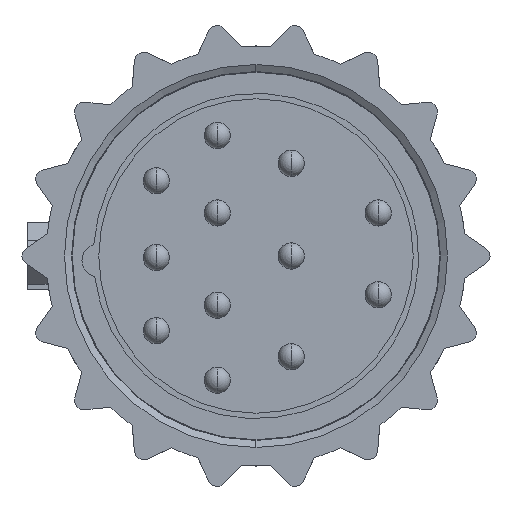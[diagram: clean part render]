
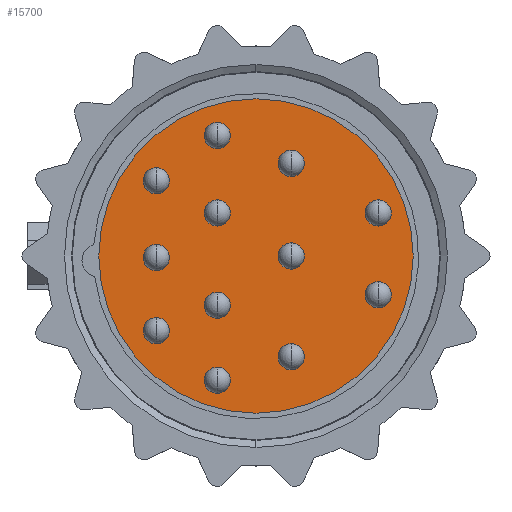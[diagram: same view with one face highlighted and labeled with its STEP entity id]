
A CAD part, left-side view. The second image highlights one B-rep face of the part: STEP entity #15700.
In plain terms, the highlighted planar face has unit normal (-1, 0, 0) as drawn and (1, 0, 0) by its records, which use the part's own axes.
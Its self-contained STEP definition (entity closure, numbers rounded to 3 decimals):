
#10785=CARTESIAN_POINT('',(-7.69,0.,0.));
#10786=DIRECTION('',(-1.,0.,0.));
#10787=DIRECTION('',(0.,0.,-1.));
#10788=AXIS2_PLACEMENT_3D('',#10785,#10786,#10787);
#10790=CARTESIAN_POINT('',(-7.69,0.,0.));
#10791=DIRECTION('',(1.,0.,0.));
#10792=DIRECTION('',(0.,0.,-1.));
#10793=AXIS2_PLACEMENT_3D('',#10790,#10791,#10792);
#10795=CARTESIAN_POINT('',(-7.69,5.66,4.24));
#10796=DIRECTION('',(1.,0.,0.));
#10797=DIRECTION('',(0.,0.,-1.));
#10798=AXIS2_PLACEMENT_3D('',#10795,#10796,#10797);
#10800=CARTESIAN_POINT('',(-7.69,5.66,4.24));
#10801=DIRECTION('',(1.,0.,0.));
#10802=DIRECTION('',(0.,0.,1.));
#10803=AXIS2_PLACEMENT_3D('',#10800,#10801,#10802);
#10805=CARTESIAN_POINT('',(-7.69,5.66,0.09));
#10806=DIRECTION('',(1.,0.,0.));
#10807=DIRECTION('',(0.,0.,-1.));
#10808=AXIS2_PLACEMENT_3D('',#10805,#10806,#10807);
#10810=CARTESIAN_POINT('',(-7.69,5.66,0.09));
#10811=DIRECTION('',(1.,0.,0.));
#10812=DIRECTION('',(0.,0.,1.));
#10813=AXIS2_PLACEMENT_3D('',#10810,#10811,#10812);
#10815=CARTESIAN_POINT('',(-7.69,5.66,-4.275));
#10816=DIRECTION('',(1.,0.,0.));
#10817=DIRECTION('',(0.,0.,-1.));
#10818=AXIS2_PLACEMENT_3D('',#10815,#10816,#10817);
#10820=CARTESIAN_POINT('',(-7.69,5.66,-4.275));
#10821=DIRECTION('',(1.,0.,0.));
#10822=DIRECTION('',(0.,0.,1.));
#10823=AXIS2_PLACEMENT_3D('',#10820,#10821,#10822);
#10825=CARTESIAN_POINT('',(-7.69,2.2,-2.445));
#10826=DIRECTION('',(1.,0.,0.));
#10827=DIRECTION('',(0.,0.,-1.));
#10828=AXIS2_PLACEMENT_3D('',#10825,#10826,#10827);
#10830=CARTESIAN_POINT('',(-7.69,2.2,-2.445));
#10831=DIRECTION('',(1.,0.,0.));
#10832=DIRECTION('',(0.,0.,1.));
#10833=AXIS2_PLACEMENT_3D('',#10830,#10831,#10832);
#10835=CARTESIAN_POINT('',(-7.69,2.2,-6.844));
#10836=DIRECTION('',(1.,0.,0.));
#10837=DIRECTION('',(0.,0.,-1.));
#10838=AXIS2_PLACEMENT_3D('',#10835,#10836,#10837);
#10840=CARTESIAN_POINT('',(-7.69,2.2,-6.844));
#10841=DIRECTION('',(1.,0.,0.));
#10842=DIRECTION('',(0.,0.,1.));
#10843=AXIS2_PLACEMENT_3D('',#10840,#10841,#10842);
#10845=CARTESIAN_POINT('',(-7.69,2.2,2.799));
#10846=DIRECTION('',(1.,0.,0.));
#10847=DIRECTION('',(0.,0.,-1.));
#10848=AXIS2_PLACEMENT_3D('',#10845,#10846,#10847);
#10850=CARTESIAN_POINT('',(-7.69,2.2,2.799));
#10851=DIRECTION('',(1.,0.,0.));
#10852=DIRECTION('',(0.,0.,1.));
#10853=AXIS2_PLACEMENT_3D('',#10850,#10851,#10852);
#10855=CARTESIAN_POINT('',(-7.69,2.2,7.058));
#10856=DIRECTION('',(1.,0.,0.));
#10857=DIRECTION('',(0.,0.,-1.));
#10858=AXIS2_PLACEMENT_3D('',#10855,#10856,#10857);
#10860=CARTESIAN_POINT('',(-7.69,2.2,7.058));
#10861=DIRECTION('',(1.,0.,0.));
#10862=DIRECTION('',(0.,0.,1.));
#10863=AXIS2_PLACEMENT_3D('',#10860,#10861,#10862);
#10865=CARTESIAN_POINT('',(-7.69,-2.,5.721));
#10866=DIRECTION('',(1.,0.,0.));
#10867=DIRECTION('',(0.,0.,-1.));
#10868=AXIS2_PLACEMENT_3D('',#10865,#10866,#10867);
#10870=CARTESIAN_POINT('',(-7.69,-2.,5.721));
#10871=DIRECTION('',(1.,0.,0.));
#10872=DIRECTION('',(0.,0.,1.));
#10873=AXIS2_PLACEMENT_3D('',#10870,#10871,#10872);
#10875=CARTESIAN_POINT('',(-7.69,-2.,0.));
#10876=DIRECTION('',(1.,0.,0.));
#10877=DIRECTION('',(0.,0.,-1.));
#10878=AXIS2_PLACEMENT_3D('',#10875,#10876,#10877);
#10880=CARTESIAN_POINT('',(-7.69,-2.,0.));
#10881=DIRECTION('',(1.,0.,0.));
#10882=DIRECTION('',(0.,0.,1.));
#10883=AXIS2_PLACEMENT_3D('',#10880,#10881,#10882);
#10885=CARTESIAN_POINT('',(-7.69,-2.,-5.261));
#10886=DIRECTION('',(1.,0.,0.));
#10887=DIRECTION('',(0.,0.,-1.));
#10888=AXIS2_PLACEMENT_3D('',#10885,#10886,#10887);
#10890=CARTESIAN_POINT('',(-7.69,-2.,-5.261));
#10891=DIRECTION('',(1.,0.,0.));
#10892=DIRECTION('',(0.,0.,1.));
#10893=AXIS2_PLACEMENT_3D('',#10890,#10891,#10892);
#10895=CARTESIAN_POINT('',(-7.69,-6.942,2.201));
#10896=DIRECTION('',(1.,0.,0.));
#10897=DIRECTION('',(0.,0.,-1.));
#10898=AXIS2_PLACEMENT_3D('',#10895,#10896,#10897);
#10900=CARTESIAN_POINT('',(-7.69,-6.942,2.201));
#10901=DIRECTION('',(1.,0.,0.));
#10902=DIRECTION('',(0.,0.,1.));
#10903=AXIS2_PLACEMENT_3D('',#10900,#10901,#10902);
#10905=CARTESIAN_POINT('',(-7.69,-6.942,-2.445));
#10906=DIRECTION('',(1.,0.,0.));
#10907=DIRECTION('',(0.,0.,-1.));
#10908=AXIS2_PLACEMENT_3D('',#10905,#10906,#10907);
#10910=CARTESIAN_POINT('',(-7.69,-6.942,-2.445));
#10911=DIRECTION('',(1.,0.,0.));
#10912=DIRECTION('',(0.,0.,1.));
#10913=AXIS2_PLACEMENT_3D('',#10910,#10911,#10912);
#11757=CARTESIAN_POINT('',(-7.69,5.66,3.49));
#11758=CARTESIAN_POINT('',(-7.69,5.66,4.99));
#11759=VERTEX_POINT('',#11757);
#11760=VERTEX_POINT('',#11758);
#11761=CARTESIAN_POINT('',(-7.69,5.66,-0.66));
#11762=CARTESIAN_POINT('',(-7.69,5.66,0.84));
#11763=VERTEX_POINT('',#11761);
#11764=VERTEX_POINT('',#11762);
#11765=CARTESIAN_POINT('',(-7.69,5.66,-5.025));
#11766=CARTESIAN_POINT('',(-7.69,5.66,-3.525));
#11767=VERTEX_POINT('',#11765);
#11768=VERTEX_POINT('',#11766);
#11769=CARTESIAN_POINT('',(-7.69,2.2,-3.195));
#11770=CARTESIAN_POINT('',(-7.69,2.2,-1.695));
#11771=VERTEX_POINT('',#11769);
#11772=VERTEX_POINT('',#11770);
#11773=CARTESIAN_POINT('',(-7.69,2.2,-7.594));
#11774=CARTESIAN_POINT('',(-7.69,2.2,-6.094));
#11775=VERTEX_POINT('',#11773);
#11776=VERTEX_POINT('',#11774);
#11777=CARTESIAN_POINT('',(-7.69,2.2,2.049));
#11778=CARTESIAN_POINT('',(-7.69,2.2,3.549));
#11779=VERTEX_POINT('',#11777);
#11780=VERTEX_POINT('',#11778);
#11781=CARTESIAN_POINT('',(-7.69,2.2,6.308));
#11782=CARTESIAN_POINT('',(-7.69,2.2,7.808));
#11783=VERTEX_POINT('',#11781);
#11784=VERTEX_POINT('',#11782);
#11785=CARTESIAN_POINT('',(-7.69,-2.,4.971));
#11786=CARTESIAN_POINT('',(-7.69,-2.,6.471));
#11787=VERTEX_POINT('',#11785);
#11788=VERTEX_POINT('',#11786);
#11789=CARTESIAN_POINT('',(-7.69,-2.,-0.75));
#11790=CARTESIAN_POINT('',(-7.69,-2.,0.75));
#11791=VERTEX_POINT('',#11789);
#11792=VERTEX_POINT('',#11790);
#11793=CARTESIAN_POINT('',(-7.69,-2.,-6.011));
#11794=CARTESIAN_POINT('',(-7.69,-2.,-4.511));
#11795=VERTEX_POINT('',#11793);
#11796=VERTEX_POINT('',#11794);
#11797=CARTESIAN_POINT('',(-7.69,-6.942,1.451));
#11798=CARTESIAN_POINT('',(-7.69,-6.942,2.951));
#11799=VERTEX_POINT('',#11797);
#11800=VERTEX_POINT('',#11798);
#11801=CARTESIAN_POINT('',(-7.69,-6.942,-3.195));
#11802=CARTESIAN_POINT('',(-7.69,-6.942,-1.695));
#11803=VERTEX_POINT('',#11801);
#11804=VERTEX_POINT('',#11802);
#11806=CARTESIAN_POINT('',(-7.69,0.,-8.93));
#11808=VERTEX_POINT('',#11806);
#11810=CARTESIAN_POINT('',(-7.69,0.,8.93));
#11812=VERTEX_POINT('',#11810);
#15619=CARTESIAN_POINT('',(-7.69,0.,0.));
#15620=DIRECTION('',(1.,0.,0.));
#15621=DIRECTION('',(0.,0.,1.));
#15622=AXIS2_PLACEMENT_3D('',#15619,#15620,#15621);
#15623=PLANE('',#15622);
#15624=ORIENTED_EDGE('',*,*,#15614,.T.);
#15625=ORIENTED_EDGE('',*,*,#15598,.F.);
#15626=EDGE_LOOP('',(#15624,#15625));
#15627=FACE_OUTER_BOUND('',#15626,.F.);
#15629=ORIENTED_EDGE('',*,*,#15628,.T.);
#15631=ORIENTED_EDGE('',*,*,#15630,.T.);
#15632=EDGE_LOOP('',(#15629,#15631));
#15633=FACE_BOUND('',#15632,.F.);
#15635=ORIENTED_EDGE('',*,*,#15634,.T.);
#15637=ORIENTED_EDGE('',*,*,#15636,.T.);
#15638=EDGE_LOOP('',(#15635,#15637));
#15639=FACE_BOUND('',#15638,.F.);
#15641=ORIENTED_EDGE('',*,*,#15640,.T.);
#15643=ORIENTED_EDGE('',*,*,#15642,.T.);
#15644=EDGE_LOOP('',(#15641,#15643));
#15645=FACE_BOUND('',#15644,.F.);
#15647=ORIENTED_EDGE('',*,*,#15646,.T.);
#15649=ORIENTED_EDGE('',*,*,#15648,.T.);
#15650=EDGE_LOOP('',(#15647,#15649));
#15651=FACE_BOUND('',#15650,.F.);
#15653=ORIENTED_EDGE('',*,*,#15652,.T.);
#15655=ORIENTED_EDGE('',*,*,#15654,.T.);
#15656=EDGE_LOOP('',(#15653,#15655));
#15657=FACE_BOUND('',#15656,.F.);
#15659=ORIENTED_EDGE('',*,*,#15658,.T.);
#15661=ORIENTED_EDGE('',*,*,#15660,.T.);
#15662=EDGE_LOOP('',(#15659,#15661));
#15663=FACE_BOUND('',#15662,.F.);
#15665=ORIENTED_EDGE('',*,*,#15664,.T.);
#15667=ORIENTED_EDGE('',*,*,#15666,.T.);
#15668=EDGE_LOOP('',(#15665,#15667));
#15669=FACE_BOUND('',#15668,.F.);
#15671=ORIENTED_EDGE('',*,*,#15670,.T.);
#15673=ORIENTED_EDGE('',*,*,#15672,.T.);
#15674=EDGE_LOOP('',(#15671,#15673));
#15675=FACE_BOUND('',#15674,.F.);
#15677=ORIENTED_EDGE('',*,*,#15676,.T.);
#15679=ORIENTED_EDGE('',*,*,#15678,.T.);
#15680=EDGE_LOOP('',(#15677,#15679));
#15681=FACE_BOUND('',#15680,.F.);
#15683=ORIENTED_EDGE('',*,*,#15682,.T.);
#15685=ORIENTED_EDGE('',*,*,#15684,.T.);
#15686=EDGE_LOOP('',(#15683,#15685));
#15687=FACE_BOUND('',#15686,.F.);
#15689=ORIENTED_EDGE('',*,*,#15688,.T.);
#15691=ORIENTED_EDGE('',*,*,#15690,.T.);
#15692=EDGE_LOOP('',(#15689,#15691));
#15693=FACE_BOUND('',#15692,.F.);
#15695=ORIENTED_EDGE('',*,*,#15694,.T.);
#15697=ORIENTED_EDGE('',*,*,#15696,.T.);
#15698=EDGE_LOOP('',(#15695,#15697));
#15699=FACE_BOUND('',#15698,.F.);
#15700=ADVANCED_FACE('',(#15627,#15633,#15639,#15645,#15651,#15657,#15663,
#15669,#15675,#15681,#15687,#15693,#15699),#15623,.T.);
#10789=CIRCLE('',#10788,8.93);
#10794=CIRCLE('',#10793,8.93);
#10799=CIRCLE('',#10798,0.75);
#10804=CIRCLE('',#10803,0.75);
#10809=CIRCLE('',#10808,0.75);
#10814=CIRCLE('',#10813,0.75);
#10819=CIRCLE('',#10818,0.75);
#10824=CIRCLE('',#10823,0.75);
#10829=CIRCLE('',#10828,0.75);
#10834=CIRCLE('',#10833,0.75);
#10839=CIRCLE('',#10838,0.75);
#10844=CIRCLE('',#10843,0.75);
#10849=CIRCLE('',#10848,0.75);
#10854=CIRCLE('',#10853,0.75);
#10859=CIRCLE('',#10858,0.75);
#10864=CIRCLE('',#10863,0.75);
#10869=CIRCLE('',#10868,0.75);
#10874=CIRCLE('',#10873,0.75);
#10879=CIRCLE('',#10878,0.75);
#10884=CIRCLE('',#10883,0.75);
#10889=CIRCLE('',#10888,0.75);
#10894=CIRCLE('',#10893,0.75);
#10899=CIRCLE('',#10898,0.75);
#10904=CIRCLE('',#10903,0.75);
#10909=CIRCLE('',#10908,0.75);
#10914=CIRCLE('',#10913,0.75);
#15598=EDGE_CURVE('',#11808,#11812,#10794,.T.);
#15614=EDGE_CURVE('',#11808,#11812,#10789,.T.);
#15628=EDGE_CURVE('',#11759,#11760,#10799,.T.);
#15630=EDGE_CURVE('',#11760,#11759,#10804,.T.);
#15634=EDGE_CURVE('',#11763,#11764,#10809,.T.);
#15636=EDGE_CURVE('',#11764,#11763,#10814,.T.);
#15640=EDGE_CURVE('',#11767,#11768,#10819,.T.);
#15642=EDGE_CURVE('',#11768,#11767,#10824,.T.);
#15646=EDGE_CURVE('',#11771,#11772,#10829,.T.);
#15648=EDGE_CURVE('',#11772,#11771,#10834,.T.);
#15652=EDGE_CURVE('',#11775,#11776,#10839,.T.);
#15654=EDGE_CURVE('',#11776,#11775,#10844,.T.);
#15658=EDGE_CURVE('',#11779,#11780,#10849,.T.);
#15660=EDGE_CURVE('',#11780,#11779,#10854,.T.);
#15664=EDGE_CURVE('',#11783,#11784,#10859,.T.);
#15666=EDGE_CURVE('',#11784,#11783,#10864,.T.);
#15670=EDGE_CURVE('',#11787,#11788,#10869,.T.);
#15672=EDGE_CURVE('',#11788,#11787,#10874,.T.);
#15676=EDGE_CURVE('',#11791,#11792,#10879,.T.);
#15678=EDGE_CURVE('',#11792,#11791,#10884,.T.);
#15682=EDGE_CURVE('',#11795,#11796,#10889,.T.);
#15684=EDGE_CURVE('',#11796,#11795,#10894,.T.);
#15688=EDGE_CURVE('',#11799,#11800,#10899,.T.);
#15690=EDGE_CURVE('',#11800,#11799,#10904,.T.);
#15694=EDGE_CURVE('',#11803,#11804,#10909,.T.);
#15696=EDGE_CURVE('',#11804,#11803,#10914,.T.);
